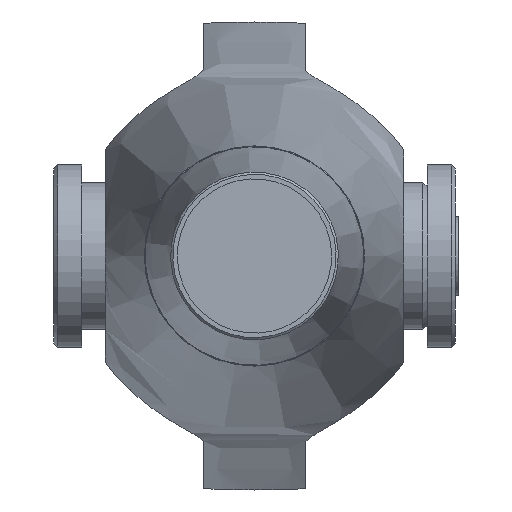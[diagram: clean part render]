
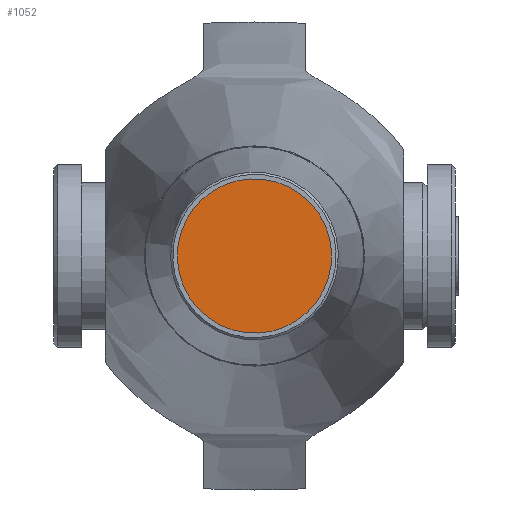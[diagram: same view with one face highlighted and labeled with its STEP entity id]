
A CAD part, left-side view. The second image highlights one B-rep face of the part: STEP entity #1052.
In plain terms, the highlighted planar face has unit normal (-1, 0, 0).
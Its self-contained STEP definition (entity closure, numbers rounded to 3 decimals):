
#83=PLANE('',#1149);
#114=FACE_OUTER_BOUND('',#177,.T.);
#177=EDGE_LOOP('',(#693,#694));
#354=CIRCLE('',#1147,19.);
#355=CIRCLE('',#1148,19.);
#421=VERTEX_POINT('',#1600);
#422=VERTEX_POINT('',#1602);
#530=EDGE_CURVE('',#422,#421,#354,.T.);
#531=EDGE_CURVE('',#421,#422,#355,.T.);
#693=ORIENTED_EDGE('',*,*,#530,.T.);
#694=ORIENTED_EDGE('',*,*,#531,.T.);
#1052=ADVANCED_FACE('',(#114),#83,.T.);
#1147=AXIS2_PLACEMENT_3D('',#1603,#1296,#1297);
#1148=AXIS2_PLACEMENT_3D('',#1604,#1298,#1299);
#1149=AXIS2_PLACEMENT_3D('',#1605,#1300,#1301);
#1296=DIRECTION('center_axis',(-1.,0.,0.));
#1297=DIRECTION('ref_axis',(0.,-0.999,0.054));
#1298=DIRECTION('center_axis',(-1.,0.,0.));
#1299=DIRECTION('ref_axis',(0.,-0.999,0.054));
#1300=DIRECTION('center_axis',(-1.,0.,0.));
#1301=DIRECTION('ref_axis',(0.,-0.999,0.054));
#1600=CARTESIAN_POINT('',(-388.,1.023,18.972));
#1602=CARTESIAN_POINT('',(-388.,-1.023,-18.972));
#1603=CARTESIAN_POINT('Origin',(-388.,0.,0.));
#1604=CARTESIAN_POINT('Origin',(-388.,0.,0.));
#1605=CARTESIAN_POINT('Origin',(-388.,0.,0.));
